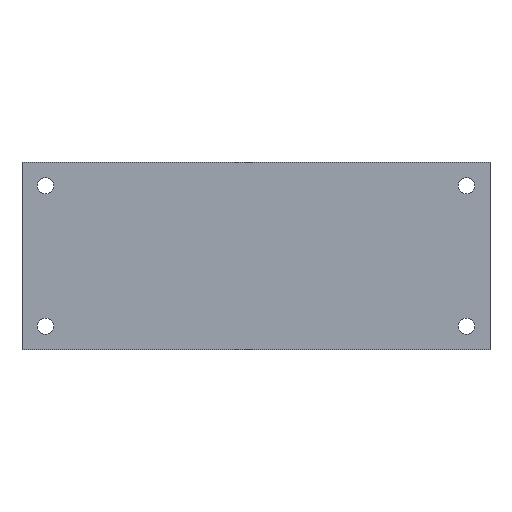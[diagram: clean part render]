
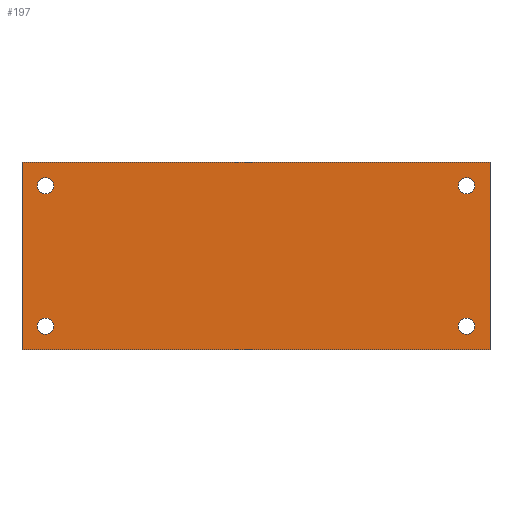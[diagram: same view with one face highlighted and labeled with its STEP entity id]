
A CAD part, top view. The second image highlights one B-rep face of the part: STEP entity #197.
In plain terms, the highlighted planar face has unit normal (0, 0, 1).
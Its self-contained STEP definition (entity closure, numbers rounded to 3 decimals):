
#15=FACE_BOUND('',#48,.T.);
#16=FACE_BOUND('',#49,.T.);
#17=FACE_BOUND('',#50,.T.);
#18=FACE_BOUND('',#51,.T.);
#27=PLANE('',#229);
#37=FACE_OUTER_BOUND('',#47,.T.);
#47=EDGE_LOOP('',(#169,#170,#171,#172));
#48=EDGE_LOOP('',(#173));
#49=EDGE_LOOP('',(#174));
#50=EDGE_LOOP('',(#175));
#51=EDGE_LOOP('',(#176));
#63=LINE('',#317,#79);
#66=LINE('',#323,#82);
#69=LINE('',#329,#85);
#72=LINE('',#333,#88);
#79=VECTOR('',#265,10.);
#82=VECTOR('',#270,10.);
#85=VECTOR('',#275,10.);
#88=VECTOR('',#280,10.);
#89=CIRCLE('',#214,1.75);
#91=CIRCLE('',#217,1.75);
#93=CIRCLE('',#220,1.75);
#95=CIRCLE('',#223,1.75);
#97=VERTEX_POINT('',#287);
#99=VERTEX_POINT('',#293);
#101=VERTEX_POINT('',#299);
#103=VERTEX_POINT('',#305);
#107=VERTEX_POINT('',#314);
#108=VERTEX_POINT('',#316);
#110=VERTEX_POINT('',#322);
#112=VERTEX_POINT('',#328);
#113=EDGE_CURVE('',#97,#97,#89,.T.);
#116=EDGE_CURVE('',#99,#99,#91,.T.);
#119=EDGE_CURVE('',#101,#101,#93,.T.);
#122=EDGE_CURVE('',#103,#103,#95,.T.);
#127=EDGE_CURVE('',#108,#107,#63,.T.);
#130=EDGE_CURVE('',#110,#108,#66,.T.);
#133=EDGE_CURVE('',#112,#110,#69,.T.);
#136=EDGE_CURVE('',#107,#112,#72,.T.);
#169=ORIENTED_EDGE('',*,*,#136,.T.);
#170=ORIENTED_EDGE('',*,*,#133,.T.);
#171=ORIENTED_EDGE('',*,*,#130,.T.);
#172=ORIENTED_EDGE('',*,*,#127,.T.);
#173=ORIENTED_EDGE('',*,*,#122,.T.);
#174=ORIENTED_EDGE('',*,*,#119,.T.);
#175=ORIENTED_EDGE('',*,*,#116,.T.);
#176=ORIENTED_EDGE('',*,*,#113,.T.);
#197=ADVANCED_FACE('',(#37,#15,#16,#17,#18),#27,.T.);
#214=AXIS2_PLACEMENT_3D('',#288,#235,#236);
#217=AXIS2_PLACEMENT_3D('',#294,#242,#243);
#220=AXIS2_PLACEMENT_3D('',#300,#249,#250);
#223=AXIS2_PLACEMENT_3D('',#306,#256,#257);
#229=AXIS2_PLACEMENT_3D('',#334,#281,#282);
#235=DIRECTION('center_axis',(0.,0.,-1.));
#236=DIRECTION('ref_axis',(1.,0.,0.));
#242=DIRECTION('center_axis',(0.,0.,-1.));
#243=DIRECTION('ref_axis',(1.,0.,0.));
#249=DIRECTION('center_axis',(0.,0.,-1.));
#250=DIRECTION('ref_axis',(1.,0.,0.));
#256=DIRECTION('center_axis',(0.,0.,-1.));
#257=DIRECTION('ref_axis',(1.,0.,0.));
#265=DIRECTION('',(-1.,0.,0.));
#270=DIRECTION('',(0.,1.,0.));
#275=DIRECTION('',(1.,0.,0.));
#280=DIRECTION('',(0.,-1.,0.));
#281=DIRECTION('center_axis',(0.,0.,1.));
#282=DIRECTION('ref_axis',(1.,0.,0.));
#287=CARTESIAN_POINT('',(3.25,35.,2.));
#288=CARTESIAN_POINT('Origin',(5.,35.,2.));
#293=CARTESIAN_POINT('',(3.25,5.,2.));
#294=CARTESIAN_POINT('Origin',(5.,5.,2.));
#299=CARTESIAN_POINT('',(93.25,35.,2.));
#300=CARTESIAN_POINT('Origin',(95.,35.,2.));
#305=CARTESIAN_POINT('',(93.25,5.,2.));
#306=CARTESIAN_POINT('Origin',(95.,5.,2.));
#314=CARTESIAN_POINT('',(0.,40.,2.));
#316=CARTESIAN_POINT('',(100.,40.,2.));
#317=CARTESIAN_POINT('',(100.,40.,2.));
#322=CARTESIAN_POINT('',(100.,0.,2.));
#323=CARTESIAN_POINT('',(100.,0.,2.));
#328=CARTESIAN_POINT('',(0.,0.,2.));
#329=CARTESIAN_POINT('',(0.,0.,2.));
#333=CARTESIAN_POINT('',(0.,40.,2.));
#334=CARTESIAN_POINT('Origin',(50.,20.,2.));
